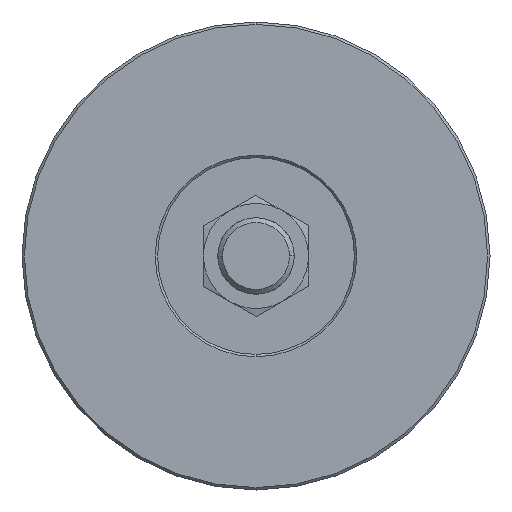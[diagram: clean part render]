
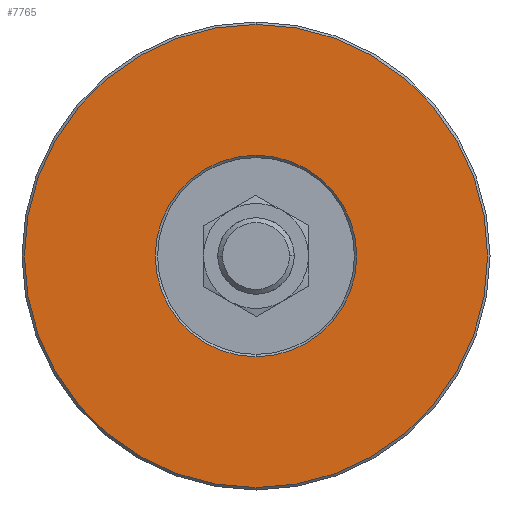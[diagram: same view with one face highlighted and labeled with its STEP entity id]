
A CAD part, front view. The second image highlights one B-rep face of the part: STEP entity #7765.
In plain terms, the highlighted planar face has unit normal (0, -1, 0).
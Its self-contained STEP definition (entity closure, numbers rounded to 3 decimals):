
#4 = VERTEX_POINT ( 'NONE', #4810 ) ;
#318 = CARTESIAN_POINT ( 'NONE',  ( 0., 0., 48.5 ) ) ;
#338 = DIRECTION ( 'NONE',  ( 0., 0., -1. ) ) ;
#364 = AXIS2_PLACEMENT_3D ( 'NONE', #8445, #7066, #338 ) ;
#729 = PLANE ( 'NONE',  #1409 ) ;
#975 = AXIS2_PLACEMENT_3D ( 'NONE', #3855, #5865, #3822 ) ;
#1074 = EDGE_CURVE ( 'NONE', #4, #4108, #2820, .T. ) ;
#1320 = FACE_BOUND ( 'NONE', #7956, .T. ) ;
#1409 = AXIS2_PLACEMENT_3D ( 'NONE', #4846, #1437, #5511 ) ;
#1437 = DIRECTION ( 'NONE',  ( 0., -1., 0. ) ) ;
#1444 = ORIENTED_EDGE ( 'NONE', *, *, #5099, .T. ) ;
#1639 = VERTEX_POINT ( 'NONE', #2027 ) ;
#2027 = CARTESIAN_POINT ( 'NONE',  ( 0., 0., -48.5 ) ) ;
#2181 = CIRCLE ( 'NONE', #975, 21.1 ) ;
#2820 = CIRCLE ( 'NONE', #4525, 21.1 ) ;
#3101 = ORIENTED_EDGE ( 'NONE', *, *, #1074, .T. ) ;
#3714 = DIRECTION ( 'NONE',  ( 0., 1., 0. ) ) ;
#3822 = DIRECTION ( 'NONE',  ( 0., 0., -1. ) ) ;
#3855 = CARTESIAN_POINT ( 'NONE',  ( 0., 0., 0. ) ) ;
#4108 = VERTEX_POINT ( 'NONE', #5965 ) ;
#4311 = CARTESIAN_POINT ( 'NONE',  ( 0., 0., 0. ) ) ;
#4356 = EDGE_CURVE ( 'NONE', #1639, #4471, #4608, .T. ) ;
#4471 = VERTEX_POINT ( 'NONE', #318 ) ;
#4525 = AXIS2_PLACEMENT_3D ( 'NONE', #6419, #3714, #6442 ) ;
#4608 = CIRCLE ( 'NONE', #5180, 48.5 ) ;
#4810 = CARTESIAN_POINT ( 'NONE',  ( 0., 0., -21.1 ) ) ;
#4846 = CARTESIAN_POINT ( 'NONE',  ( 20.6, 0., 0. ) ) ;
#5099 = EDGE_CURVE ( 'NONE', #4471, #1639, #5967, .T. ) ;
#5180 = AXIS2_PLACEMENT_3D ( 'NONE', #4311, #5668, #6487 ) ;
#5511 = DIRECTION ( 'NONE',  ( 0., 0., -1. ) ) ;
#5668 = DIRECTION ( 'NONE',  ( 0., -1., 0. ) ) ;
#5865 = DIRECTION ( 'NONE',  ( 0., 1., 0. ) ) ;
#5965 = CARTESIAN_POINT ( 'NONE',  ( 0., 0., 21.1 ) ) ;
#5967 = CIRCLE ( 'NONE', #364, 48.5 ) ;
#6419 = CARTESIAN_POINT ( 'NONE',  ( 0., 0., 0. ) ) ;
#6442 = DIRECTION ( 'NONE',  ( 0., 0., -1. ) ) ;
#6487 = DIRECTION ( 'NONE',  ( 0., 0., -1. ) ) ;
#6746 = EDGE_LOOP ( 'NONE', ( #1444, #7002 ) ) ;
#7002 = ORIENTED_EDGE ( 'NONE', *, *, #4356, .T. ) ;
#7066 = DIRECTION ( 'NONE',  ( 0., -1., 0. ) ) ;
#7562 = FACE_OUTER_BOUND ( 'NONE', #6746, .T. ) ;
#7765 = ADVANCED_FACE ( 'NONE', ( #7562, #1320 ), #729, .T. ) ;
#7934 = ORIENTED_EDGE ( 'NONE', *, *, #8217, .T. ) ;
#7956 = EDGE_LOOP ( 'NONE', ( #3101, #7934 ) ) ;
#8217 = EDGE_CURVE ( 'NONE', #4108, #4, #2181, .T. ) ;
#8445 = CARTESIAN_POINT ( 'NONE',  ( 0., 0., 0. ) ) ;
